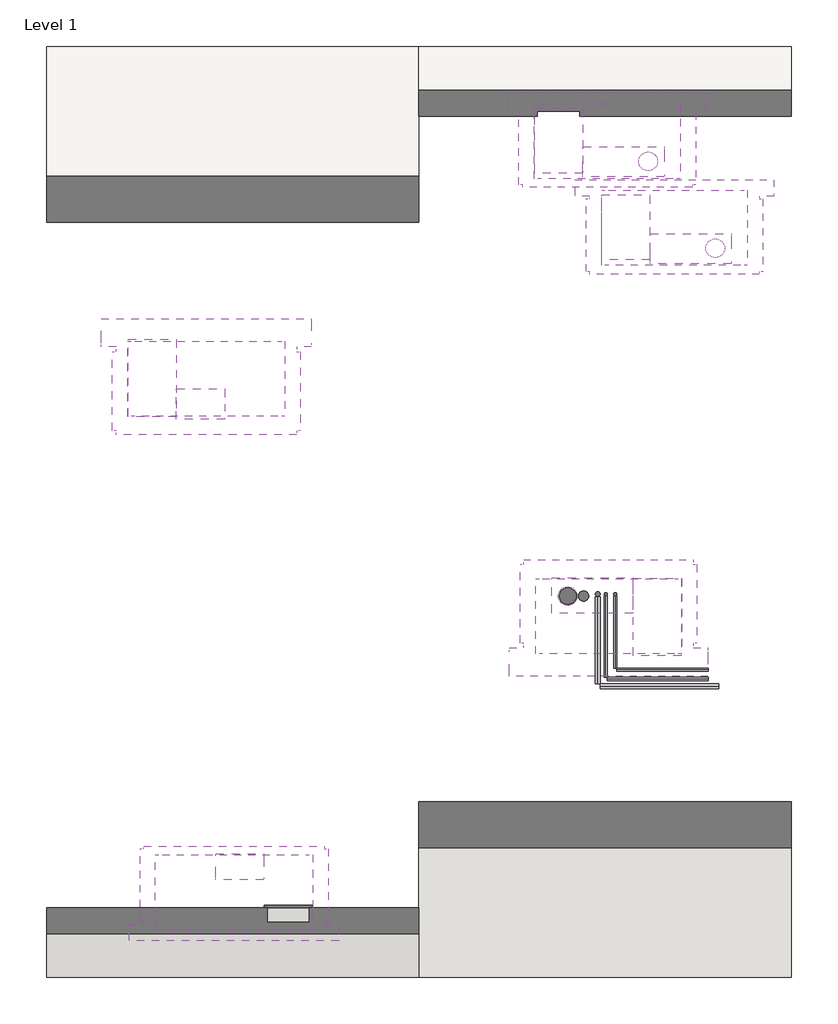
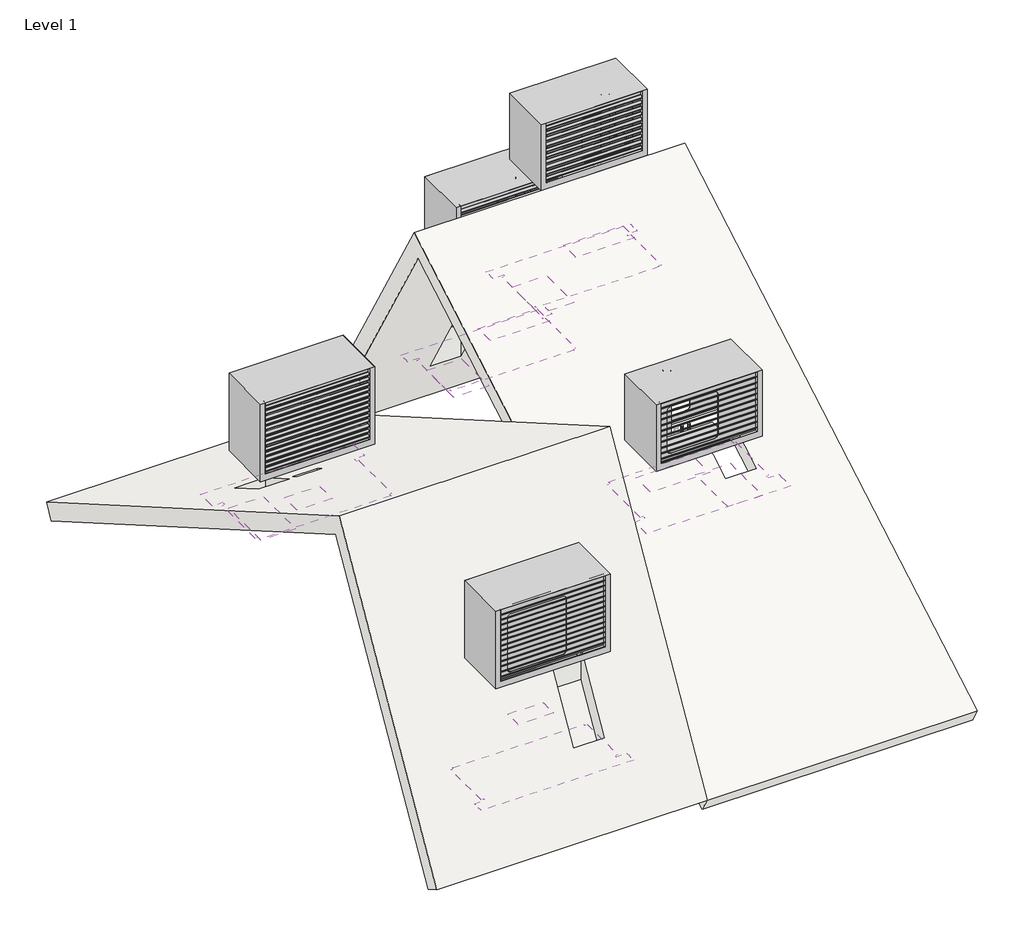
# One storey, incomplete: 15 coverings, 13 pipe segments, 5 unitary equipment elements, 2 roofs, 1 duct segment.
"""IFC4 building model written with IfcOpenShell, lengths in millimetres."""

from ifc_helpers import new_model, si_unit, point, frame, frame_2d, origin, place, context, project, spatial, circle_curve, trimmed, segment, composite_curve, outline, extrude, faceted_brep, transform, mapped, element, save
from components import covering_ebfa055f, covering_0022e7d6, covering_44cbcef2, covering_237e270b, covering_b66512e7, covering_b17e486a, covering_12e15cb3, covering_40b79405, inspection_panel_dda_93841c41, inspection_panel_dda_a83ceb8f, pipe_segment_adc9d0ba, delta_discovery_air_bdbf6794, delta_discovery_air_83ad3b17, delta_discovery_air_xl_f5126de7, delta_discovery_air_xl_14b97afa

model = new_model("IFC4")

# Units and contexts
model_context = context("Model", 3, world=origin())
ifc_project = project(units=[si_unit("LENGTHUNIT", "METRE", prefix="MILLI")], contexts=[model_context])

# Site, building, storey
site = spatial("IfcSite", under=ifc_project)
building = spatial("IfcBuilding", under=site)
storey = spatial("IfcBuildingStorey", under=building, Name="Level 1", Elevation=0.0)

# Coverings
placement = place(None, origin())
covering_shape = covering_ebfa055f(model_context)
element("IfcCovering", 1, ObjectType="MG_BPL_Delta Discovery Air_roofboard-CO_M&G : roofboard DDA", at=placement, inside=storey, context=model_context, shape_type="MappedRepresentation", body=[
    mapped(covering_shape, transform((8173.9996074, -2235.3633269, 2475.4617163), x_axis=(0.0, 1.0, 0.0), y_axis=(-1.0, 0.0, 0.0), z_axis=(0.0, 0.0, 1.0))),
])
covering_2_shape = covering_0022e7d6(model_context)
element("IfcCovering", 2, ObjectType="MG_BPL_Delta Discovery Air_roofboard-CO_M&G : roofboard DDA-XL", at=placement, inside=storey, context=model_context, shape_type="MappedRepresentation", body=[
    mapped(covering_2_shape, transform((4387.1169231, -5151.0925738, 1942.219356), x_axis=(0.0, 1.0, 0.0), y_axis=(-1.0, 0.0, 0.0), z_axis=(0.0, 0.0, 1.0))),
])
covering_3_shape = covering_44cbcef2(model_context)
element("IfcCovering", 3, ObjectType="MG_BPL_Delta Discovery Air_roofboard-CO_M&G : roofboard DDA", at=placement, inside=storey, context=model_context, shape_type="MappedRepresentation", body=[
    mapped(covering_3_shape, transform((8510.5299691, 2441.3325879, 2027.822587), x_axis=(0.0, -1.0, 0.0), y_axis=(1.0, 0.0, 0.0), z_axis=(0.0, 0.0, 1.0))),
])
element("IfcCovering", 4, ObjectType="MG_BPL_Delta Discovery Air_roofboard-CO_M&G : roofboard DDA", at=placement, inside=storey, context=model_context, shape_type="MappedRepresentation", body=[
    mapped(covering_3_shape, transform((9232.5367575, 1507.7923396, 3644.761728), x_axis=(0.0, -1.0, 0.0), y_axis=(1.0, 0.0, 0.0), z_axis=(0.0, 0.0, 1.0))),
])
covering_4_shape = covering_237e270b(model_context)
element("IfcCovering", 5, ObjectType="MG_BPL_Delta Discovery Air_roofboard-CO_M&G : roofboard DDA-XL", at=placement, inside=storey, context=model_context, shape_type="MappedRepresentation", body=[
    mapped(covering_4_shape, transform((3967.4796779, -166.4650275, 2326.2117163), x_axis=(0.0, -1.0, 0.0), y_axis=(1.0, 0.0, 0.0), z_axis=(0.0, 0.0, 1.0))),
])
covering_5_shape = covering_b66512e7(model_context)
element("IfcCovering", 6, ObjectType="MG_BPL_Delta Discovery Air_mountingbox-CO_M&G : mountingbox DDA", at=placement, inside=storey, context=model_context, shape_type="MappedRepresentation", body=[
    mapped(covering_5_shape, transform((8348.9996074, -2790.8188759, 2443.4405917), x_axis=(0.0, 1.0, 0.0), y_axis=(-1.0, 0.0, 0.0), z_axis=(0.0, 0.0, 1.0))),
])
covering_6_shape = covering_b17e486a(model_context)
element("IfcCovering", 7, ObjectType="MG_BPL_Delta Discovery Air_mountingbox-CO_M&G : mountingbox DDA-XL", at=placement, inside=storey, context=model_context, shape_type="MappedRepresentation", body=[
    mapped(covering_6_shape, transform((4325.6169231, -5757.5859079, 1391.7305412), x_axis=(0.0, 1.0, 0.0), y_axis=(-1.0, 0.0, 0.0), z_axis=(0.0, 0.0, 1.0))),
])
covering_7_shape = covering_12e15cb3(model_context)
element("IfcCovering", 8, ObjectType="MG_BPL_Delta Discovery Air_mountingbox-CO_M&G : mountingbox DDA", at=placement, inside=storey, context=model_context, shape_type="MappedRepresentation", body=[
    mapped(covering_7_shape, transform((8335.5299691, 2993.325922, 1571.7305412), x_axis=(0.0, -1.0, 0.0), y_axis=(1.0, 0.0, 0.0), z_axis=(0.0, 0.0, 1.0))),
])
element("IfcCovering", 9, ObjectType="MG_BPL_Delta Discovery Air_mountingbox-CO_M&G : mountingbox DDA", at=placement, inside=storey, context=model_context, shape_type="MappedRepresentation", body=[
    mapped(covering_7_shape, transform((9057.5367575, 2059.7856737, 3188.6696822), x_axis=(0.0, -1.0, 0.0), y_axis=(1.0, 0.0, 0.0), z_axis=(0.0, 0.0, 1.0))),
])
covering_8_shape = covering_40b79405(model_context)
element("IfcCovering", 10, ObjectType="MG_BPL_Delta Discovery Air_mountingbox-CO_M&G : mountingbox DDA-XL", at=placement, inside=storey, context=model_context, shape_type="MappedRepresentation", body=[
    mapped(covering_8_shape, transform((4028.9796779, 442.2510838, 2263.4405917), x_axis=(0.0, -1.0, 0.0), y_axis=(1.0, 0.0, 0.0), z_axis=(0.0, 0.0, 1.0))),
])
inspection_panel_dda_shape = inspection_panel_dda_93841c41(model_context)
element("IfcCovering", 11, ObjectType="MG_BPL_Delta Discovery Air_insp panel-CO_M&G : inspection panel DDA", at=placement, inside=storey, context=model_context, shape_type="MappedRepresentation", body=[
    mapped(inspection_panel_dda_shape, transform((8871.4996074, -2464.4270462, 2343.2117163), x_axis=(0.0, 1.0000000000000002, 0.0), y_axis=(-1.0000000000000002, 0.0, 0.0), z_axis=(0.0, 0.0, 1.0))),
])
element("IfcCovering", 12, ObjectType="MG_BPL_Delta Discovery Air_insp panel-CO_M&G : inspection panel DDA", at=placement, inside=storey, context=model_context, shape_type="MappedRepresentation", body=[
    mapped(inspection_panel_dda_shape, transform((3446.4796779, 115.8592541, 2163.2117163), x_axis=(0.0, -1.0000000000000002, 0.0), y_axis=(1.0000000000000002, 0.0, 0.0), z_axis=(0.0, 0.0, 1.0))),
])
inspection_panel_dda_2_shape = inspection_panel_dda_a83ceb8f(model_context)
element("IfcCovering", 13, ObjectType="MG_BPL_Delta Discovery Air_insp panel-CO_M&G : inspection panel DDA", at=placement, inside=storey, context=model_context, shape_type="MappedRepresentation", body=[
    mapped(inspection_panel_dda_2_shape, transform((4908.1169231, -5435.0925738, 1450.3169266), x_axis=(0.0, 1.0000000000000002, 0.0), y_axis=(-1.0000000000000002, 0.0, 0.0), z_axis=(0.0, 0.0, 1.0))),
])
element("IfcCovering", 14, ObjectType="MG_BPL_Delta Discovery Air_insp panel-CO_M&G : inspection panel DDA", at=placement, inside=storey, context=model_context, shape_type="MappedRepresentation", body=[
    mapped(inspection_panel_dda_2_shape, transform((7813.0299691, 2670.8325879, 1630.3169266), x_axis=(0.0, -1.0000000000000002, 0.0), y_axis=(1.0000000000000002, 0.0, 0.0), z_axis=(0.0, 0.0, 1.0))),
])
element("IfcCovering", 15, ObjectType="MG_BPL_Delta Discovery Air_insp panel-CO_M&G : inspection panel DDA", at=placement, inside=storey, context=model_context, shape_type="MappedRepresentation", body=[
    mapped(inspection_panel_dda_2_shape, transform((8535.0367575, 1737.2923396, 3247.2560676), x_axis=(0.0, -1.0000000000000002, 0.0), y_axis=(1.0000000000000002, 0.0, 0.0), z_axis=(0.0, 0.0, 1.0))),
])

# Duct segment
element("IfcDuctSegment", 16, ObjectType="Default", at=placement, inside=storey, context=model_context, shape_type="SweptSolid", body=[
    extrude(outline(composite_curve([segment(trimmed(circle_curve(frame_2d((7910.9996074, -2233.8255417)), 90.0), [point((7910.9996074, -2143.8255417))], [point((8000.9996074, -2233.8255417))], False, "CARTESIAN"), True, "CONTINUOUS"), segment(trimmed(circle_curve(frame_2d((7910.9996074, -2233.8255417)), 90.0), [point((8000.9996074, -2233.8255417))], [point((7910.9996074, -2323.8255417))], False, "CARTESIAN"), True, "CONTINUOUS"), segment(trimmed(circle_curve(frame_2d((7910.9996074, -2233.8255417)), 90.0), [point((7910.9996074, -2323.8255417))], [point((7820.9996074, -2233.8255417))], False, "CARTESIAN"), True, "CONTINUOUS"), segment(trimmed(circle_curve(frame_2d((7910.9996074, -2233.8255417)), 90.0), [point((7820.9996074, -2233.8255417))], [point((7910.9996074, -2143.8255417))], False, "CARTESIAN"), True, "CONTINUOUS")], self_intersect=False)), frame((0.0, 0.0, 264.2186654), z_axis=(0.0, 0.0, 1.0), x_axis=(1.0, 0.0, 0.0)), (0.0, 0.0, 1.0), 1800.0),
])

# Pipe segments
pipe_segment_shape = pipe_segment_adc9d0ba(model_context)
element("IfcPipeSegment", 17, ObjectType="MG_BPL_Delta Discovery Air_pipe extension set-CO_M&G : pipe ext set L=1000mm", at=placement, inside=storey, context=model_context, shape_type="MappedRepresentation", body=[
    mapped(pipe_segment_shape, transform((7910.9996074, -2233.8255417, 3064.2186654), x_axis=(1.0, 0.0, 0.0), y_axis=(0.0, 1.0, 0.0), z_axis=(0.0, 0.0, 1.0))),
])
element("IfcPipeSegment", 18, ObjectType="MG_BPL_Delta Discovery Air_pipe extension set-CO_M&G : pipe ext set L=1000mm", at=placement, inside=storey, context=model_context, shape_type="MappedRepresentation", body=[
    mapped(pipe_segment_shape, transform((8773.5299691, 2436.3325879, 3064.2186654), x_axis=(-1.0, 0.0, 0.0), y_axis=(0.0, -1.0, 0.0), z_axis=(0.0, 0.0, 1.0))),
])
element("IfcPipeSegment", 19, ObjectType="MG_BPL_Delta Discovery Air_pipe extension set-CO_M&G : pipe ext set L=1000mm", at=placement, inside=storey, context=model_context, shape_type="MappedRepresentation", body=[
    mapped(pipe_segment_shape, transform((9495.5367575, 1502.7923396, 4681.1578064), x_axis=(-1.0, 0.0, 0.0), y_axis=(0.0, -1.0, 0.0), z_axis=(0.0, 0.0, 1.0))),
])
element("IfcPipeSegment", 20, ObjectType="design HDPE", at=placement, inside=storey, context=model_context, shape_type="SweptSolid", body=[
    extrude(outline(composite_curve([segment(trimmed(circle_curve(frame_2d((0.0, 24.9999999)), 25.0), [point((25.0, 24.9999999))], [point((0.0, 0.0))], False, "CARTESIAN"), True, "CONTINUOUS"), segment(trimmed(circle_curve(frame_2d((0.0, 24.9999999)), 25.0), [point((0.0, 0.0))], [point((-25.0, 24.9999999))], False, "CARTESIAN"), True, "CONTINUOUS"), segment(trimmed(circle_curve(frame_2d((0.0, 24.9999999)), 25.0), [point((-25.0, 24.9999999))], [point((0.0, 50.0))], False, "CARTESIAN"), True, "CONTINUOUS"), segment(trimmed(circle_curve(frame_2d((0.0, 24.9999999)), 25.0), [point((0.0, 50.0))], [point((25.0, 24.9999999))], False, "CARTESIAN"), True, "CONTINUOUS")], self_intersect=False)), frame((8232.9996074, -3174.0946461, 79.9171407), z_axis=(0.0, 0.9998875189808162, 0.014998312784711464), x_axis=(1.0, 0.0, 0.0)), (0.0, 0.0, 1.0), 933.5022973),
])
element("IfcPipeSegment", 21, ObjectType="design HDPE", at=placement, inside=storey, context=model_context, shape_type="SweptSolid", body=[
    extrude(outline(composite_curve([segment(trimmed(circle_curve(frame_2d((0.0, 25.0)), 25.0), [point((0.0, 50.0))], [point((25.0, 25.0))], False, "CARTESIAN"), True, "CONTINUOUS"), segment(trimmed(circle_curve(frame_2d((0.0, 25.0)), 25.0), [point((25.0, 25.0))], [point((0.0, 0.0))], False, "CARTESIAN"), True, "CONTINUOUS"), segment(trimmed(circle_curve(frame_2d((0.0, 25.0)), 25.0), [point((0.0, 0.0))], [point((-25.0, 25.0))], False, "CARTESIAN"), True, "CONTINUOUS"), segment(trimmed(circle_curve(frame_2d((0.0, 25.0)), 25.0), [point((-25.0, 25.0))], [point((0.0, 50.0))], False, "CARTESIAN"), True, "CONTINUOUS")], self_intersect=False)), frame((9532.9996074, -3226.7165388, 35.0), z_axis=(-0.9998875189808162, 0.0, 0.014998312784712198), x_axis=(0.014998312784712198, 0.0, 0.9998875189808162)), (0.0, 0.0, 1.0), 1272.1462418),
])
element("IfcPipeSegment", 22, ObjectType="design HDPE", at=placement, inside=storey, context=model_context, shape_type="SweptSolid", body=[
    extrude(outline(composite_curve([segment(trimmed(circle_curve(frame_2d((8232.9996074, -2212.3255417)), 25.0), [point((8257.9996074, -2212.3255417))], [point((8232.9996074, -2237.3255417))], False, "CARTESIAN"), True, "CONTINUOUS"), segment(trimmed(circle_curve(frame_2d((8232.9996074, -2212.3255417)), 25.0), [point((8232.9996074, -2237.3255417))], [point((8207.9996074, -2212.3255417))], False, "CARTESIAN"), True, "CONTINUOUS"), segment(trimmed(circle_curve(frame_2d((8232.9996074, -2212.3255417)), 25.0), [point((8207.9996074, -2212.3255417))], [point((8232.9996074, -2187.3255417))], False, "CARTESIAN"), True, "CONTINUOUS"), segment(trimmed(circle_curve(frame_2d((8232.9996074, -2212.3255417)), 25.0), [point((8232.9996074, -2187.3255417))], [point((8257.9996074, -2212.3255417))], False, "CARTESIAN"), True, "CONTINUOUS")], self_intersect=False)), frame((0.0, 0.0, 97.340865), z_axis=(0.0, 0.0, 1.0), x_axis=(1.0, 0.0, 0.0)), (0.0, 0.0, 1.0), 1966.8778004),
])
element("IfcPipeSegment", 23, ObjectType="design HDPE", at=placement, inside=storey, context=model_context, shape_type="SweptSolid", body=[
    extrude(outline(composite_curve([segment(trimmed(circle_curve(frame_2d((8080.9996074, -2233.8255417)), 55.0), [point((8135.9996074, -2233.8255417))], [point((8080.9996074, -2288.8255417))], False, "CARTESIAN"), True, "CONTINUOUS"), segment(trimmed(circle_curve(frame_2d((8080.9996074, -2233.8255417)), 55.0), [point((8080.9996074, -2288.8255417))], [point((8025.9996074, -2233.8255417))], False, "CARTESIAN"), True, "CONTINUOUS"), segment(trimmed(circle_curve(frame_2d((8080.9996074, -2233.8255417)), 55.0), [point((8025.9996074, -2233.8255417))], [point((8080.9996074, -2178.8255417))], False, "CARTESIAN"), True, "CONTINUOUS"), segment(trimmed(circle_curve(frame_2d((8080.9996074, -2233.8255417)), 55.0), [point((8080.9996074, -2178.8255417))], [point((8135.9996074, -2233.8255417))], False, "CARTESIAN"), True, "CONTINUOUS")], self_intersect=False)), frame((0.0, 0.0, 702.5), z_axis=(0.0, 0.0, 1.0), x_axis=(1.0, 0.0, 0.0)), (0.0, 0.0, 1.0), 1361.7186654),
])
element("IfcPipeSegment", 24, ObjectType="design steel pipes", at=placement, inside=storey, context=model_context, shape_type="SweptSolid", body=[
    extrude(outline(composite_curve([segment(trimmed(circle_curve(frame_2d((8419.9996074, -2212.3255417)), 16.85), [point((8436.8496074, -2212.3255417))], [point((8419.9996074, -2229.1755417))], False, "CARTESIAN"), True, "CONTINUOUS"), segment(trimmed(circle_curve(frame_2d((8419.9996074, -2212.3255417)), 16.85), [point((8419.9996074, -2229.1755417))], [point((8403.1496074, -2212.3255417))], False, "CARTESIAN"), True, "CONTINUOUS"), segment(trimmed(circle_curve(frame_2d((8419.9996074, -2212.3255417)), 16.85), [point((8403.1496074, -2212.3255417))], [point((8419.9996074, -2195.4755417))], False, "CARTESIAN"), True, "CONTINUOUS"), segment(trimmed(circle_curve(frame_2d((8419.9996074, -2212.3255417)), 16.85), [point((8419.9996074, -2195.4755417))], [point((8436.8496074, -2212.3255417))], False, "CARTESIAN"), True, "CONTINUOUS")], self_intersect=False)), frame((0.0, 0.0, 42.5), z_axis=(0.0, 0.0, 1.0), x_axis=(1.0, 0.0, 0.0)), (0.0, 0.0, 1.0), 3013.9759803),
])
element("IfcPipeSegment", 25, ObjectType="design steel pipes", at=placement, inside=storey, context=model_context, shape_type="SweptSolid", body=[
    extrude(outline(composite_curve([segment(trimmed(circle_curve(frame_2d((25.0, 8419.9996074)), 16.85), [point((25.0, 8403.1496074))], [point((8.15, 8419.9996074))], False, "CARTESIAN"), True, "CONTINUOUS"), segment(trimmed(circle_curve(frame_2d((25.0, 8419.9996074)), 16.85), [point((8.15, 8419.9996074))], [point((25.0, 8436.8496074))], False, "CARTESIAN"), True, "CONTINUOUS"), segment(trimmed(circle_curve(frame_2d((25.0, 8419.9996074)), 16.85), [point((25.0, 8436.8496074))], [point((41.85, 8419.9996074))], False, "CARTESIAN"), True, "CONTINUOUS"), segment(trimmed(circle_curve(frame_2d((25.0, 8419.9996074)), 16.85), [point((41.85, 8419.9996074))], [point((25.0, 8403.1496074))], False, "CARTESIAN"), True, "CONTINUOUS")], self_intersect=False)), frame((0.0, -3007.1522073, 0.0), z_axis=(0.0, 1.0, 0.0), x_axis=(0.0, 0.0, 1.0)), (0.0, 0.0, 1.0), 777.3266656),
])
element("IfcPipeSegment", 26, ObjectType="design steel pipes", at=placement, inside=storey, context=model_context, shape_type="SweptSolid", body=[
    extrude(outline(composite_curve([segment(trimmed(circle_curve(frame_2d((0.0, 16.8499999)), 16.85), [point((-16.85, 16.8499999))], [point((0.0, 33.6999999))], False, "CARTESIAN"), True, "CONTINUOUS"), segment(trimmed(circle_curve(frame_2d((0.0, 16.8499999)), 16.85), [point((0.0, 33.6999999))], [point((16.85, 16.8499999))], False, "CARTESIAN"), True, "CONTINUOUS"), segment(trimmed(circle_curve(frame_2d((0.0, 16.8499999)), 16.85), [point((16.85, 16.8499999))], [point((0.0, 0.0))], False, "CARTESIAN"), True, "CONTINUOUS"), segment(trimmed(circle_curve(frame_2d((0.0, 16.8499999)), 16.85), [point((0.0, 0.0))], [point((-16.85, 16.8499999))], False, "CARTESIAN"), True, "CONTINUOUS")], self_intersect=False)), frame((8437.5000121, -3024.6522073, 8.1504204), z_axis=(0.9999999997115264, 0.0, 2.401972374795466e-05), x_axis=(0.0, 1.0, 0.0)), (0.0, 0.0, 1.0), 982.545468),
])
element("IfcPipeSegment", 27, ObjectType="design steel pipes", at=placement, inside=storey, context=model_context, shape_type="SweptSolid", body=[
    extrude(outline(composite_curve([segment(trimmed(circle_curve(frame_2d((8319.9996074, -2212.3255417)), 16.85), [point((8303.1496074, -2212.3255417))], [point((8319.9996074, -2195.4755417))], False, "CARTESIAN"), True, "CONTINUOUS"), segment(trimmed(circle_curve(frame_2d((8319.9996074, -2212.3255417)), 16.85), [point((8319.9996074, -2195.4755417))], [point((8336.8496074, -2212.3255417))], False, "CARTESIAN"), True, "CONTINUOUS"), segment(trimmed(circle_curve(frame_2d((8319.9996074, -2212.3255417)), 16.85), [point((8336.8496074, -2212.3255417))], [point((8319.9996074, -2229.1755417))], False, "CARTESIAN"), True, "CONTINUOUS"), segment(trimmed(circle_curve(frame_2d((8319.9996074, -2212.3255417)), 16.85), [point((8319.9996074, -2229.1755417))], [point((8303.1496074, -2212.3255417))], False, "CARTESIAN"), True, "CONTINUOUS")], self_intersect=False)), frame((0.0, 0.0, 42.5), z_axis=(0.0, 0.0, 1.0), x_axis=(1.0, 0.0, 0.0)), (0.0, 0.0, 1.0), 3013.9759803),
])
element("IfcPipeSegment", 28, ObjectType="design steel pipes", at=placement, inside=storey, context=model_context, shape_type="SweptSolid", body=[
    extrude(outline(composite_curve([segment(trimmed(circle_curve(frame_2d((25.0, 8319.9996074)), 16.85), [point((25.0, 8303.1496074))], [point((8.15, 8319.9996074))], False, "CARTESIAN"), True, "CONTINUOUS"), segment(trimmed(circle_curve(frame_2d((25.0, 8319.9996074)), 16.85), [point((8.15, 8319.9996074))], [point((25.0, 8336.8496074))], False, "CARTESIAN"), True, "CONTINUOUS"), segment(trimmed(circle_curve(frame_2d((25.0, 8319.9996074)), 16.85), [point((25.0, 8336.8496074))], [point((41.85, 8319.9996074))], False, "CARTESIAN"), True, "CONTINUOUS"), segment(trimmed(circle_curve(frame_2d((25.0, 8319.9996074)), 16.85), [point((41.85, 8319.9996074))], [point((25.0, 8303.1496074))], False, "CARTESIAN"), True, "CONTINUOUS")], self_intersect=False)), frame((0.0, -3107.1522073, 0.0), z_axis=(0.0, 1.0, 0.0), x_axis=(0.0, 0.0, 1.0)), (0.0, 0.0, 1.0), 877.3266656),
])
element("IfcPipeSegment", 29, ObjectType="design steel pipes", at=placement, inside=storey, context=model_context, shape_type="SweptSolid", body=[
    extrude(outline(composite_curve([segment(trimmed(circle_curve(frame_2d((0.0, 16.8499999)), 16.85), [point((-16.85, 16.8499999))], [point((0.0, 33.6999999))], False, "CARTESIAN"), True, "CONTINUOUS"), segment(trimmed(circle_curve(frame_2d((0.0, 16.8499999)), 16.85), [point((0.0, 33.6999999))], [point((16.85, 16.8499999))], False, "CARTESIAN"), True, "CONTINUOUS"), segment(trimmed(circle_curve(frame_2d((0.0, 16.8499999)), 16.85), [point((16.85, 16.8499999))], [point((0.0, 0.0))], False, "CARTESIAN"), True, "CONTINUOUS"), segment(trimmed(circle_curve(frame_2d((0.0, 16.8499999)), 16.85), [point((0.0, 0.0))], [point((-16.85, 16.8499999))], False, "CARTESIAN"), True, "CONTINUOUS")], self_intersect=False)), frame((8337.5000121, -3124.6522073, 8.1504204), z_axis=(0.9999999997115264, 0.0, 2.401972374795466e-05), x_axis=(0.0, 1.0, 0.0)), (0.0, 0.0, 1.0), 1082.5454679),
])

# Roofs
element("IfcRoof", 30, ObjectType="Roof 1", at=placement, inside=storey, context=model_context, shape_type="Brep", body=[
    faceted_brep([(2311.6571684, -6330.1684687, 400.0), (2311.6571684, -3830.1684687, 4730.1270189), (2311.6571684, 3669.8315313, 400.0), (2311.6571684, 3544.8315313, 183.4936491), (2311.6571684, -3738.6621178, 4388.620668), (2311.6571684, -6113.6621178, 275.0), (6311.6571684, -3830.1684687, 4730.1270189), (6311.6571684, -6330.1684687, 400.0), (6311.6571684, -6113.6621178, 275.0), (6311.6571684, -3738.6621178, 4388.620668), (6311.6571684, 3544.8315313, 183.4936491), (6311.6571684, 3669.8315313, 400.0), (5135.6169231, -5132.5925738, 2474.2622959), (5135.6169231, -5737.5925738, 1426.3715573), (4680.6169231, -5737.5925738, 1426.3715573), (4680.6169231, -5132.5925738, 2474.2622959), (4582.6169231, -5091.0925738, 2546.1424044), (4582.6169231, -5211.0925738, 2338.2963075), (4219.6169231, -5211.0925738, 2338.2963075), (4219.6169231, -5091.0925738, 2546.1424044), (3218.9796779, -186.8166245, 2626.6368509), (3218.9796779, 418.5351327, 2277.1368509), (3673.9796779, 418.5351327, 2277.1368509), (3673.9796779, -186.8166245, 2626.6368509), (3771.9796779, -226.6537931, 2649.6368509), (3771.9796779, -106.276262, 2580.1368509), (4134.9796779, -106.276262, 2580.1368509), (4134.9796779, -226.6537931, 2649.6368509), (3218.9796779, 418.5351327, 1988.4617163), (3218.9796779, -186.8166245, 2337.9617163), (3673.9796779, -186.8166245, 2337.9617163), (3673.9796779, 418.5351327, 1988.4617163), (3771.9796779, -106.276262, 2291.4617163), (3771.9796779, -226.6537931, 2360.9617163), (4134.9796779, -226.6537931, 2360.9617163), (4134.9796779, -106.276262, 2291.4617163), (5135.6169231, -5737.5925738, 926.3715573), (5135.6169231, -5132.5925738, 1974.2622959), (4680.6169231, -5132.5925738, 1974.2622959), (4680.6169231, -5737.5925738, 926.3715573), (4582.6169231, -5211.0925738, 1838.2963075), (4582.6169231, -5091.0925738, 2046.1424044), (4219.6169231, -5091.0925738, 2046.1424044), (4219.6169231, -5211.0925738, 1838.2963075)], [[[0, 1, 2, 3, 4, 5]], [[6, 7, 8, 9, 10, 11]], [[1, 0, 7, 6], [12, 13, 14, 15], [16, 17, 18, 19]], [[2, 1, 6, 11], [20, 21, 22, 23], [24, 25, 26, 27]], [[9, 4, 3, 10], [28, 29, 30, 31], [32, 33, 34, 35]], [[4, 9, 8, 5], [36, 37, 38, 39], [40, 41, 42, 43]], [[3, 2, 11, 10]], [[0, 5, 8, 7]], [[36, 13, 12, 37]], [[38, 15, 14, 39]], [[37, 12, 15, 38]], [[13, 36, 39, 14]], [[40, 17, 16, 41]], [[42, 19, 18, 43]], [[41, 16, 19, 42]], [[17, 40, 43, 18]], [[28, 21, 20, 29]], [[30, 23, 22, 31]], [[29, 20, 23, 30]], [[21, 28, 31, 22]], [[32, 25, 24, 33]], [[34, 27, 26, 35]], [[33, 24, 27, 34]], [[25, 32, 35, 26]]]),
])
element("IfcRoof", 31, ObjectType="Roof 1", at=placement, inside=storey, context=model_context, shape_type="Brep", body=[
    faceted_brep([(10311.6571684, 3669.8315313, 400.0), (10311.6571684, 1169.8315313, 4730.1270189), (10311.6571684, -6330.1684687, 400.0), (10311.6571684, -6205.1684687, 183.4936491), (10311.6571684, 1078.3251803, 4388.620668), (10311.6571684, 3453.3251803, 275.0), (6311.6571684, 1169.8315313, 4730.1270189), (6311.6571684, 3669.8315313, 400.0), (6311.6571684, 3453.3251803, 275.0), (6311.6571684, 1078.3251803, 4388.620668), (6311.6571684, -6205.1684687, 183.4936491), (6311.6571684, -6330.1684687, 400.0), (7585.5299691, 2368.3325879, 2654.2622959), (7585.5299691, 2973.3325879, 1606.3715573), (8040.5299691, 2973.3325879, 1606.3715573), (8040.5299691, 2368.3325879, 2654.2622959), (8142.5299691, 2331.3325879, 2718.3481758), (8142.5299691, 2551.3325879, 2337.2969981), (8884.5299691, 2551.3325879, 2337.2969981), (8884.5299691, 2331.3325879, 2718.3481758), (9098.9996074, -2161.7511676, 2806.6368509), (9098.9996074, -2767.1029248, 2457.1368509), (8643.9996074, -2767.1029248, 2457.1368509), (8643.9996074, -2161.7511676, 2806.6368509), (8541.9996074, -2125.3781006, 2827.6368509), (8541.9996074, -2345.3485532, 2700.6368509), (7799.9996074, -2345.3485532, 2700.6368509), (7799.9996074, -2125.3781006, 2827.6368509), (9098.9996074, -2767.1029248, 2168.4617163), (9098.9996074, -2161.7511676, 2517.9617163), (8643.9996074, -2161.7511676, 2517.9617163), (8643.9996074, -2767.1029248, 2168.4617163), (8541.9996074, -2345.3485532, 2411.9617163), (8541.9996074, -2125.3781006, 2538.9617163), (7799.9996074, -2125.3781006, 2538.9617163), (7799.9996074, -2345.3485532, 2411.9617163), (7585.5299691, 2973.3325879, 1106.3715573), (7585.5299691, 2368.3325879, 2154.2622959), (8040.5299691, 2368.3325879, 2154.2622959), (8040.5299691, 2973.3325879, 1106.3715573), (8142.5299691, 2551.3325879, 1837.2969981), (8142.5299691, 2331.3325879, 2218.3481758), (8884.5299691, 2331.3325879, 2218.3481758), (8884.5299691, 2551.3325879, 1837.2969981)], [[[0, 1, 2, 3, 4, 5]], [[6, 7, 8, 9, 10, 11]], [[1, 0, 7, 6], [12, 13, 14, 15], [16, 17, 18, 19]], [[2, 1, 6, 11], [20, 21, 22, 23], [24, 25, 26, 27]], [[9, 4, 3, 10], [28, 29, 30, 31], [32, 33, 34, 35]], [[4, 9, 8, 5], [36, 37, 38, 39], [40, 41, 42, 43]], [[3, 2, 11, 10]], [[0, 5, 8, 7]], [[28, 21, 20, 29]], [[30, 23, 22, 31]], [[29, 20, 23, 30]], [[21, 28, 31, 22]], [[32, 25, 24, 33]], [[34, 27, 26, 35]], [[33, 24, 27, 34]], [[25, 32, 35, 26]], [[36, 13, 12, 37]], [[38, 15, 14, 39]], [[37, 12, 15, 38]], [[13, 36, 39, 14]], [[40, 17, 16, 41]], [[42, 19, 18, 43]], [[41, 16, 19, 42]], [[17, 40, 43, 18]]]),
])

# Unitary equipment
delta_discovery_air_shape = delta_discovery_air_bdbf6794(model_context)
element("IfcUnitaryEquipment", 32, ObjectType="MG_BPL_Delta Discovery Air_M&G : Delta Discovery Air", at=placement, inside=storey, context=model_context, shape_type="MappedRepresentation", body=[
    mapped(delta_discovery_air_shape, transform((8348.9996074, -2048.3255417, 2872.1231665), x_axis=(1.0, 0.0, 0.0), y_axis=(0.0, 1.0, 0.0), z_axis=(0.0, 0.0, 1.0))),
])
delta_discovery_air_2_shape = delta_discovery_air_83ad3b17(model_context)
element("IfcUnitaryEquipment", 33, ObjectType="MG_BPL_Delta Discovery Air_M&G : Delta Discovery Air", at=placement, inside=storey, context=model_context, shape_type="MappedRepresentation", body=[
    mapped(delta_discovery_air_2_shape, transform((8335.5299691, 2250.8325879, 2857.7782658), x_axis=(-1.0, 0.0, 0.0), y_axis=(0.0, -1.0, 0.0), z_axis=(0.0, 0.0, 1.0))),
])
element("IfcUnitaryEquipment", 34, ObjectType="MG_BPL_Delta Discovery Air_M&G : Delta Discovery Air", at=placement, inside=storey, context=model_context, shape_type="MappedRepresentation", body=[
    mapped(delta_discovery_air_2_shape, transform((9057.5367575, 1317.2923396, 4474.7174068), x_axis=(-1.0, 0.0, 0.0), y_axis=(0.0, -1.0, 0.0), z_axis=(0.0, 0.0, 1.0))),
])
delta_discovery_air_xl_shape = delta_discovery_air_xl_f5126de7(model_context)
element("IfcUnitaryEquipment", 35, ObjectType="MG_BPL_Delta Discovery Air_M&G : Delta Discovery Air-XL", at=placement, inside=storey, context=model_context, shape_type="MappedRepresentation", body=[
    mapped(delta_discovery_air_xl_shape, transform((4325.6169231, -5015.0925738, 2677.7782658), x_axis=(1.0, 0.0, 0.0), y_axis=(0.0, 1.0, 0.0), z_axis=(0.0, 0.0, 1.0))),
])
delta_discovery_air_xl_2_shape = delta_discovery_air_xl_14b97afa(model_context)
element("IfcUnitaryEquipment", 36, ObjectType="MG_BPL_Delta Discovery Air_M&G : Delta Discovery Air-XL", at=placement, inside=storey, context=model_context, shape_type="MappedRepresentation", body=[
    mapped(delta_discovery_air_xl_2_shape, transform((4028.9796779, -300.2422504, 2692.1231665), x_axis=(-1.0, 0.0, 0.0), y_axis=(0.0, -1.0, 0.0), z_axis=(0.0, 0.0, 1.0))),
])

save(model, "model.ifc")
